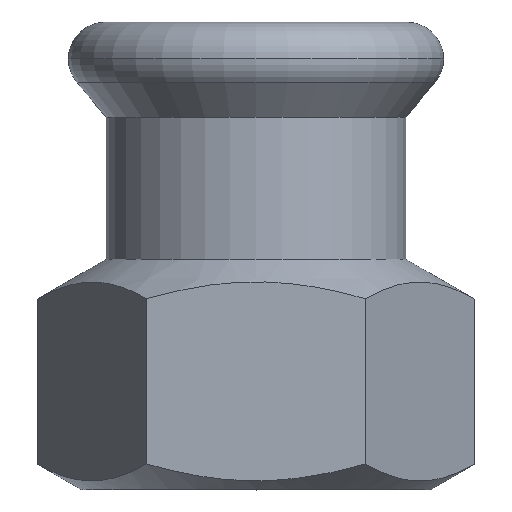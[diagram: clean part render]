
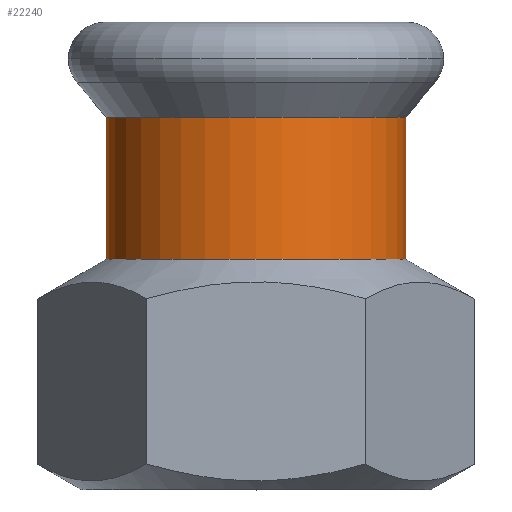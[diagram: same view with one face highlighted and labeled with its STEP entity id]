
A CAD part, top view. The second image highlights one B-rep face of the part: STEP entity #22240.
In plain terms, the highlighted cylindrical face has radius 12.65 mm (diameter 25.3 mm), a partial arc.
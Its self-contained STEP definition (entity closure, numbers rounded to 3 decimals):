
#3850=CARTESIAN_POINT('',(291.097,50.181,
0.));
#3860=VERTEX_POINT('',#3850);
#5680=CARTESIAN_POINT('',(265.797,50.181,0.));
#5690=VERTEX_POINT('',#5680);
#5720=CARTESIAN_POINT('',(278.447,50.181,0.));
#5730=DIRECTION('',(0.,-1.,0.));
#5740=DIRECTION('',(-1.,0.,0.));
#5750=AXIS2_PLACEMENT_3D('',#5720,#5730,#5740);
#5760=CIRCLE('',#5750,12.65);
#5770=EDGE_CURVE('',#3860,#5690,#5760,.T.);
#21690=CARTESIAN_POINT('',(291.097,62.168,0.));
#21700=VERTEX_POINT('',#21690);
#21880=CARTESIAN_POINT('',(265.797,62.168,
0.));
#21890=VERTEX_POINT('',#21880);
#21920=CARTESIAN_POINT('',(278.447,62.168,0.));
#21930=DIRECTION('',(0.,1.,0.));
#21940=DIRECTION('',(-1.,0.,0.));
#21950=AXIS2_PLACEMENT_3D('',#21920,#21930,#21940);
#21960=CIRCLE('',#21950,12.65);
#22020=CARTESIAN_POINT('',(278.447,55.416,0.));
#22030=DIRECTION('',(0.,-1.,0.));
#22040=DIRECTION('',(-1.,0.,0.));
#22050=AXIS2_PLACEMENT_3D('',#22020,#22030,#22040);
#22060=CYLINDRICAL_SURFACE('',#22050,12.65);
#22070=CARTESIAN_POINT('',(265.797,55.416,0.));
#22080=DIRECTION('',(0.,-1.,0.));
#22090=VECTOR('',#22080,1.);
#22100=LINE('',#22070,#22090);
#22110=EDGE_CURVE('',#21890,#5690,#22100,.T.);
#22120=ORIENTED_EDGE('',*,*,#22110,.T.);
#22130=EDGE_CURVE('',#21890,#21700,#21960,.T.);
#22140=ORIENTED_EDGE('',*,*,#22130,.F.);
#22150=CARTESIAN_POINT('',(291.097,55.416,
0.));
#22160=DIRECTION('',(0.,-1.,0.));
#22170=VECTOR('',#22160,1.);
#22180=LINE('',#22150,#22170);
#22190=EDGE_CURVE('',#21700,#3860,#22180,.T.);
#22200=ORIENTED_EDGE('',*,*,#22190,.F.);
#22210=ORIENTED_EDGE('',*,*,#5770,.F.);
#22220=EDGE_LOOP('',(#22210,#22200,#22140,#22120));
#22230=FACE_OUTER_BOUND('',#22220,.T.);
#22240=ADVANCED_FACE('',(#22230),#22060,.T.);
